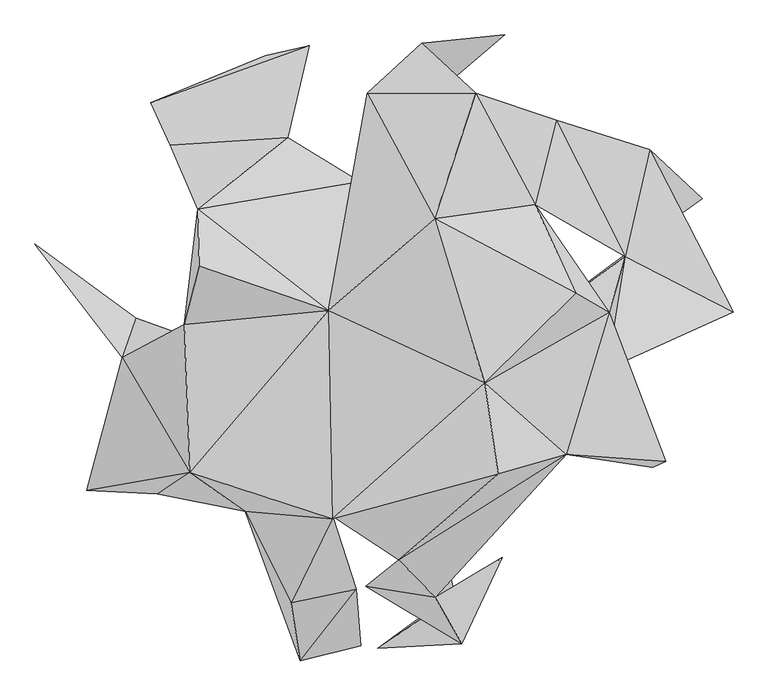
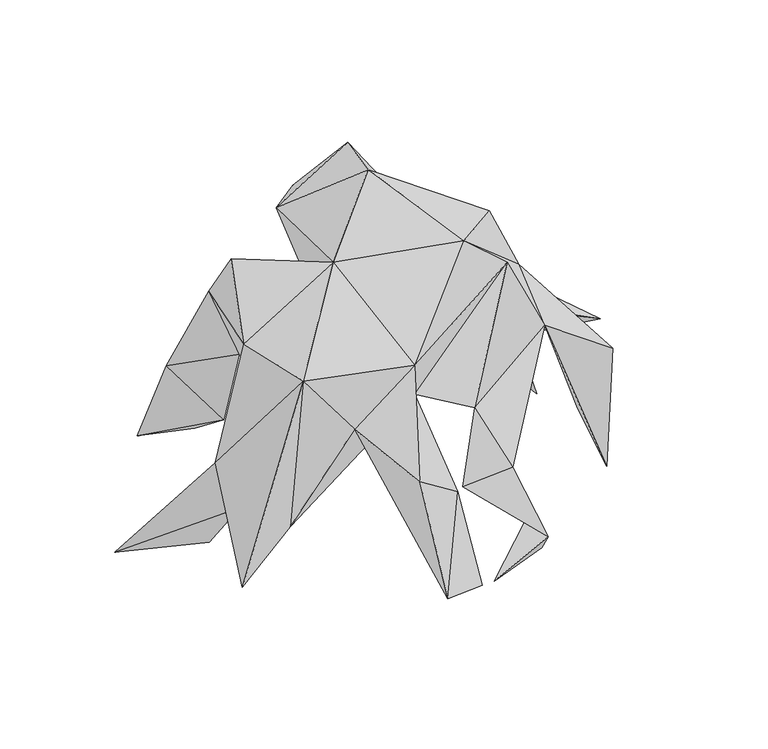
"""IFC4 building model written with IfcOpenShell, lengths in millimetres: geographic element geometry, Enscape AssetDefinition - Potted Plant 230 Grapevines : Enscape AssetDefinition - Potted Plant 230 Grapevines 3."""

from ifc_helpers import new_model, si_unit, origin, place, context, project, spatial, triangles, source, transform, mapped, element, save


def geographic_element_7a93afb1(model_context):
    return source(origin(), model_context, "Body", "Tessellation", [
        triangles([(715.812921, -392.6546302, -366.7957798), (749.5927631, -376.4362887, 114.5856657), (594.721802, -130.3587582, 176.8815907), (485.1934948, -358.7590247, 293.4510924), (637.6823702, -326.9847651, -134.243214), (599.359237, 19.3280967, 285.0595443), (929.2583227, 20.5444741, -63.8779278), (377.1060153, -23.3790667, 286.1093894), (707.9100603, 452.2246133, -9.4377881), (704.7062588, 220.0122974, -178.7749344), (847.4170246, 322.0830294, -537.0741943), (638.0661404, 414.9440763, -307.2475977), (642.7433258, 168.2909268, 7.6023606), (497.9329062, 401.8788855, 1.3286029), (402.8599302, 306.8638638, 333.381613), (459.0305205, 530.9633391, 239.249895), (510.3790215, 71.0277594, 512.3737761), (135.6333454, 268.7253306, 700.0000053), (245.2340501, 603.1894175, 574.5502135), (101.9512716, 736.4768486, 362.1511142), (269.4892011, -168.7796325, 615.5051628), (-367.9940715, -509.749118, 240.8499972), (-136.7700947, -529.8954174, 444.2746988), (-515.7694628, -405.4809548, 433.6386111), (-245.809669, -753.3793779, 121.4350387), (40.4807549, -639.1160036, 266.8573305), (304.8293223, -410.5890006, 658.3318365), (-47.0839538, -708.8368206, 3.1386889), (118.0212118, -397.7917076, 306.7878147), (-134.6631466, -523.6252333, 317.3007631), (-12.2542802, -149.9764652, 14.7196184), (-413.0036425, 221.1309428, 133.91738), (157.133541, 77.8300695, 57.0828711), (208.8151248, 539.4960669, 269.6702039), (-43.6158243, 602.6680467, 397.121981), (-146.7726182, 24.1103425, 550.7656551), (-63.9467145, 367.2700241, 264.0010187), (-254.9180157, 484.1183061, 149.9583612), (-128.6862403, 92.1080315, -36.9004071), (-367.114365, 407.6132011, -275.2923353), (-567.4075899, 464.2182489, -10.3319695), (-314.5458441, 702.9938633, -508.7101553), (-618.7524937, 578.1884726, -358.4512673), (-197.4079541, 729.2292532, -482.1344882), (-493.3787147, 294.9896976, 385.8270309), (-529.7035323, -12.5257945, 358.8712635), (-465.8183693, -64.7503855, 159.4866677), (-601.5783966, -462.8642982, -123.1147963), (-602.7875525, -113.9087085, -253.1911952), (-658.4729616, 4.3261048, -451.6707227), (-926.9630413, 201.303265, -519.2447957), (-694.7869514, -99.8153736, -35.7600561), (-789.1431107, -453.7414902, -319.4186208), (-72.4070538, -716.5984835, -3.9278864), (-221.902044, -907.0231247, -293.7045108), (-60.522028, -867.5487173, -316.0880101), (-490.4716973, 142.3487694, 614.7015055), (322.1771733, 757.9372393, -293.6176157), (158.5164508, 619.4801382, -140.2237265), (208.4313728, -862.1257925, -206.7986963), (136.9909115, -737.8235687, 40.6979746), (-15.2662647, -874.3004128, -309.7853062), (189.7042455, -733.7363909, -208.9128659), (315.8780665, -631.542556, -430.4167148)], [[64, 62, 63], [62, 60, 63], [63, 60, 28], [64, 60, 62], [28, 60, 61], [63, 61, 64], [60, 64, 61], [59, 58, 20], [35, 58, 59], [20, 58, 35], [45, 46, 57], [45, 57, 36], [46, 36, 57], [36, 46, 24], [55, 56, 54], [25, 55, 54], [22, 55, 25], [54, 56, 22], [56, 55, 22], [30, 54, 22], [25, 54, 30], [24, 53, 48], [24, 48, 22], [30, 22, 48], [52, 53, 24], [52, 48, 53], [52, 24, 46], [50, 51, 52], [49, 48, 52], [51, 50, 49], [51, 49, 52], [47, 50, 52], [48, 49, 47], [30, 48, 47], [47, 52, 46], [49, 50, 47], [32, 46, 45], [47, 46, 32], [45, 41, 32], [44, 43, 41], [44, 42, 43], [43, 42, 40], [41, 40, 32], [41, 43, 40], [40, 42, 44], [45, 38, 41], [38, 44, 41], [32, 40, 38], [40, 44, 38], [39, 32, 38], [35, 37, 36], [45, 37, 38], [37, 45, 36], [39, 38, 37], [34, 59, 20], [34, 37, 35], [34, 35, 59], [33, 39, 37], [33, 37, 34], [47, 32, 31], [39, 31, 32], [31, 39, 33], [30, 47, 31], [8, 33, 34], [31, 33, 8], [29, 30, 31], [8, 29, 31], [4, 29, 8], [4, 61, 29], [61, 63, 29], [63, 28, 26], [28, 61, 26], [29, 26, 30], [63, 26, 29], [26, 61, 4], [26, 27, 30], [26, 4, 27], [23, 25, 30], [22, 23, 24], [24, 23, 36], [22, 25, 23], [30, 27, 23], [21, 23, 27], [27, 4, 21], [23, 21, 36], [6, 8, 34], [13, 8, 6], [21, 4, 6], [21, 6, 17], [35, 36, 18], [36, 21, 18], [18, 21, 17], [19, 20, 35], [19, 34, 20], [35, 18, 19], [15, 6, 34], [15, 19, 18], [18, 17, 15], [17, 6, 15], [19, 16, 34], [15, 16, 19], [13, 16, 15], [14, 13, 15], [34, 16, 14], [15, 34, 14], [14, 10, 13], [13, 10, 8], [14, 12, 10], [11, 10, 12], [13, 9, 16], [11, 12, 9], [10, 11, 9], [9, 14, 16], [12, 14, 9], [7, 10, 9], [13, 7, 9], [3, 4, 8], [3, 7, 13], [8, 10, 3], [7, 3, 10], [3, 13, 6], [5, 4, 3], [5, 1, 4], [4, 2, 6], [2, 3, 6], [2, 5, 3], [1, 2, 4], [2, 1, 5]]),
    ])


if __name__ == "__main__":
    model = new_model("IFC4")
    model_context = context("Model", 3, world=origin())
    ifc_project = project(units=[si_unit("LENGTHUNIT", "METRE", prefix="MILLI")], contexts=[model_context])
    site = spatial("IfcSite", under=ifc_project)
    building = spatial("IfcBuilding", under=site)
    placement = place(None, origin())
    geographic_element_shape = geographic_element_7a93afb1(model_context)
    element("IfcGeographicElement", 1, ObjectType="Enscape AssetDefinition - Potted Plant 230 Grapevines : Enscape AssetDefinition - Potted Plant 230 Grapevines 3", at=placement, inside=building, context=model_context, shape_type="MappedRepresentation", body=[
        mapped(geographic_element_shape, transform((0.0, 0.0, 0.0), x_axis=(1.0, 0.0, 0.0), y_axis=(0.0, 1.0, 0.0), z_axis=(0.0, 0.0, 1.0))),
    ])
    save(model, "model.ifc")
